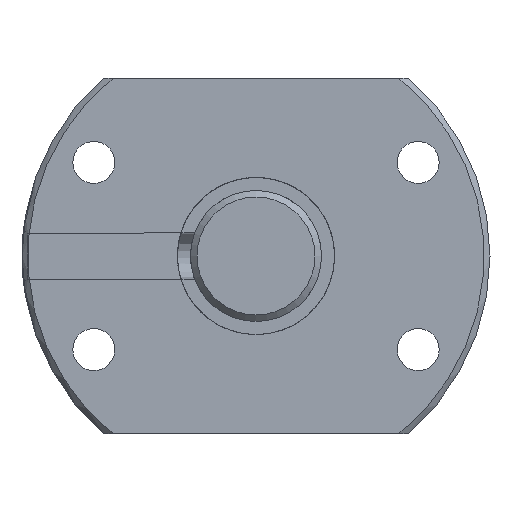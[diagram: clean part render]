
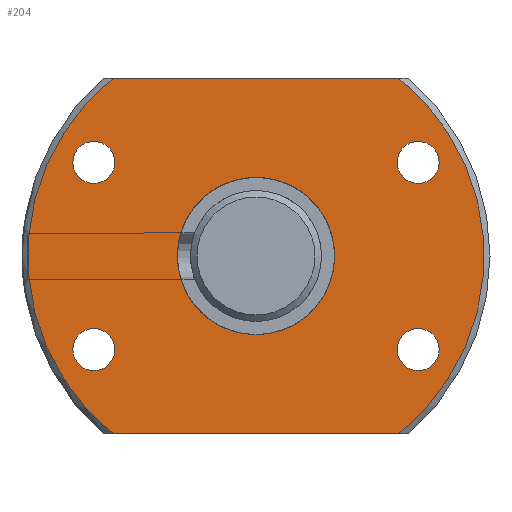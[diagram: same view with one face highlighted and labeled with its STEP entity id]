
A CAD part, left-side view. The second image highlights one B-rep face of the part: STEP entity #204.
In plain terms, the highlighted planar face has unit normal (-1, 0, 0).
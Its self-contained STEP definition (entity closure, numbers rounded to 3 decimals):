
#204 = ADVANCED_FACE( '', ( #311, #312, #313, #314, #315, #316 ), #317, .T. );
#311 = FACE_BOUND( '', #427, .T. );
#312 = FACE_OUTER_BOUND( '', #428, .T. );
#313 = FACE_BOUND( '', #429, .T. );
#314 = FACE_BOUND( '', #430, .T. );
#315 = FACE_BOUND( '', #431, .T. );
#316 = FACE_BOUND( '', #432, .T. );
#317 = PLANE( '', #433 );
#427 = EDGE_LOOP( '', ( #642 ) );
#428 = EDGE_LOOP( '', ( #643, #644, #645, #646 ) );
#429 = EDGE_LOOP( '', ( #647 ) );
#430 = EDGE_LOOP( '', ( #648 ) );
#431 = EDGE_LOOP( '', ( #649 ) );
#432 = EDGE_LOOP( '', ( #650 ) );
#433 = AXIS2_PLACEMENT_3D( '', #651, #652, #653 );
#642 = ORIENTED_EDGE( '', *, *, #718, .T. );
#643 = ORIENTED_EDGE( '', *, *, #738, .F. );
#644 = ORIENTED_EDGE( '', *, *, #703, .F. );
#645 = ORIENTED_EDGE( '', *, *, #709, .F. );
#646 = ORIENTED_EDGE( '', *, *, #739, .F. );
#647 = ORIENTED_EDGE( '', *, *, #695, .T. );
#648 = ORIENTED_EDGE( '', *, *, #697, .T. );
#649 = ORIENTED_EDGE( '', *, *, #699, .T. );
#650 = ORIENTED_EDGE( '', *, *, #701, .T. );
#651 = CARTESIAN_POINT( '', ( 0., 24.375, 0. ) );
#652 = DIRECTION( '', ( -1., 0., 0. ) );
#653 = DIRECTION( '', ( 0., 0., 1. ) );
#695 = EDGE_CURVE( '', #771, #771, #772, .T. );
#697 = EDGE_CURVE( '', #775, #775, #776, .T. );
#699 = EDGE_CURVE( '', #779, #779, #780, .T. );
#701 = EDGE_CURVE( '', #783, #783, #784, .T. );
#703 = EDGE_CURVE( '', #785, #788, #789, .T. );
#709 = EDGE_CURVE( '', #798, #785, #800, .T. );
#718 = EDGE_CURVE( '', #815, #815, #816, .T. );
#738 = EDGE_CURVE( '', #788, #849, #850, .T. );
#739 = EDGE_CURVE( '', #849, #798, #851, .T. );
#771 = VERTEX_POINT( '', #944 );
#772 = CIRCLE( '', #945, 2.25 );
#775 = VERTEX_POINT( '', #948 );
#776 = CIRCLE( '', #949, 2.25 );
#779 = VERTEX_POINT( '', #952 );
#780 = CIRCLE( '', #953, 2.25 );
#783 = VERTEX_POINT( '', #956 );
#784 = CIRCLE( '', #957, 2.25 );
#785 = VERTEX_POINT( '', #958 );
#788 = VERTEX_POINT( '', #964 );
#789 = CIRCLE( '', #965, 24.375 );
#798 = VERTEX_POINT( '', #981 );
#800 = LINE( '', #986, #987 );
#815 = VERTEX_POINT( '', #1039 );
#816 = CIRCLE( '', #1040, 8.4 );
#849 = VERTEX_POINT( '', #1112 );
#850 = LINE( '', #1113, #1114 );
#851 = CIRCLE( '', #1115, 24.375 );
#944 = CARTESIAN_POINT( '', ( 0., 17.321, -12.25 ) );
#945 = AXIS2_PLACEMENT_3D( '', #1162, #1163, #1164 );
#948 = CARTESIAN_POINT( '', ( 0., -17.321, -12.25 ) );
#949 = AXIS2_PLACEMENT_3D( '', #1168, #1169, #1170 );
#952 = CARTESIAN_POINT( '', ( 0., -17.321, 7.75 ) );
#953 = AXIS2_PLACEMENT_3D( '', #1174, #1175, #1176 );
#956 = CARTESIAN_POINT( '', ( 0., 17.321, 7.75 ) );
#957 = AXIS2_PLACEMENT_3D( '', #1180, #1181, #1182 );
#958 = CARTESIAN_POINT( '', ( 0., 15.269, -19. ) );
#964 = CARTESIAN_POINT( '', ( 0., 15.269, 19. ) );
#965 = AXIS2_PLACEMENT_3D( '', #1183, #1184, #1185 );
#981 = CARTESIAN_POINT( '', ( 0., -15.269, -19. ) );
#986 = CARTESIAN_POINT( '', ( 0., -25.1, -19. ) );
#987 = VECTOR( '', #1190, 1000. );
#1039 = CARTESIAN_POINT( '', ( 0., 0., -8.4 ) );
#1040 = AXIS2_PLACEMENT_3D( '', #1202, #1203, #1204 );
#1112 = CARTESIAN_POINT( '', ( 0., -15.269, 19. ) );
#1113 = CARTESIAN_POINT( '', ( 0., 25.1, 19. ) );
#1114 = VECTOR( '', #1246, 1000. );
#1115 = AXIS2_PLACEMENT_3D( '', #1247, #1248, #1249 );
#1162 = CARTESIAN_POINT( '', ( 0., 17.321, -10. ) );
#1163 = DIRECTION( '', ( 1., 0., 0. ) );
#1164 = DIRECTION( '', ( 0., 0., -1. ) );
#1168 = CARTESIAN_POINT( '', ( 0., -17.321, -10. ) );
#1169 = DIRECTION( '', ( 1., 0., 0. ) );
#1170 = DIRECTION( '', ( 0., 0., -1. ) );
#1174 = CARTESIAN_POINT( '', ( 0., -17.321, 10. ) );
#1175 = DIRECTION( '', ( 1., 0., 0. ) );
#1176 = DIRECTION( '', ( 0., 0., -1. ) );
#1180 = CARTESIAN_POINT( '', ( 0., 17.321, 10. ) );
#1181 = DIRECTION( '', ( 1., 0., 0. ) );
#1182 = DIRECTION( '', ( 0., 0., -1. ) );
#1183 = CARTESIAN_POINT( '', ( 0., 0., 0. ) );
#1184 = DIRECTION( '', ( 1., 0., 0. ) );
#1185 = DIRECTION( '', ( 0., 0., -1. ) );
#1190 = DIRECTION( '', ( 0., 1., 0. ) );
#1202 = CARTESIAN_POINT( '', ( 0., 0., 0. ) );
#1203 = DIRECTION( '', ( 1., 0., 0. ) );
#1204 = DIRECTION( '', ( 0., 0., -1. ) );
#1246 = DIRECTION( '', ( 0., -1., 0. ) );
#1247 = CARTESIAN_POINT( '', ( 0., 0., 0. ) );
#1248 = DIRECTION( '', ( 1., 0., 0. ) );
#1249 = DIRECTION( '', ( 0., 0., -1. ) );
